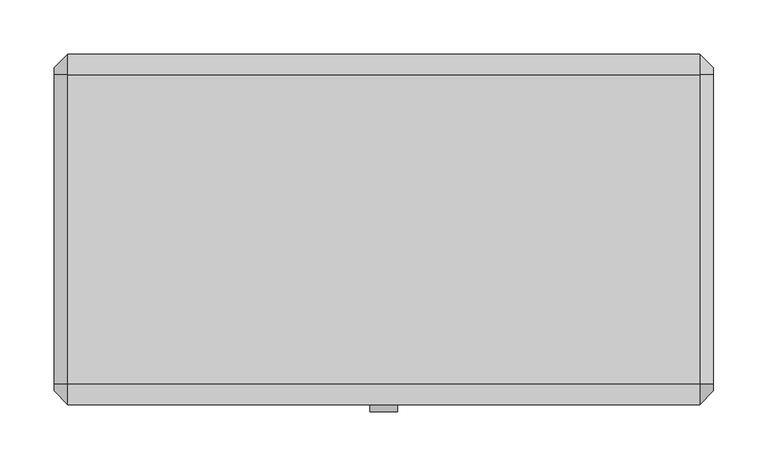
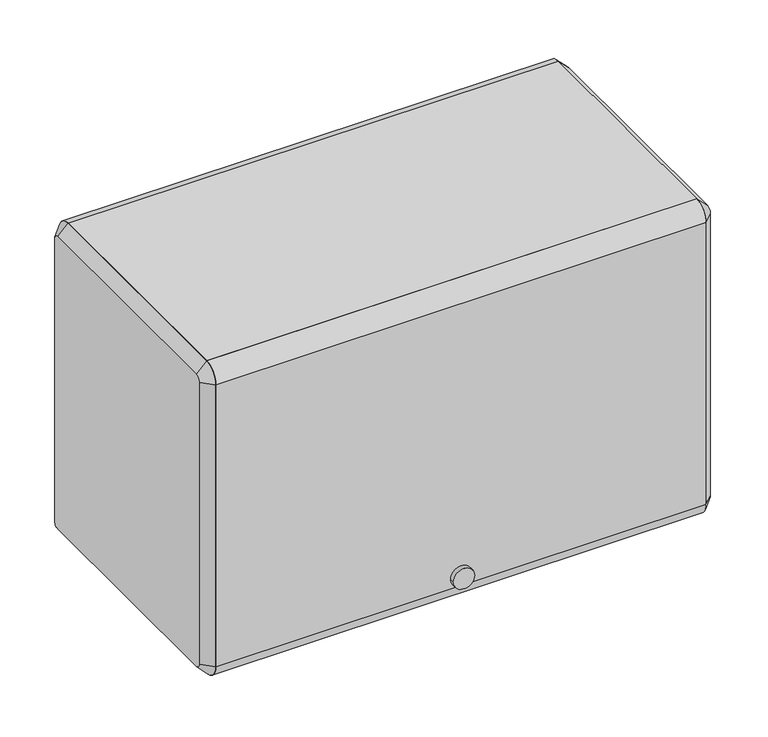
"""IFC4 building model written with IfcOpenShell, lengths in millimetres: furniture geometry."""

import ifcopenshell
import ifcopenshell.guid

model = None  # the IFC model being written
_history = None  # IfcOwnerHistory: only IFC2X3 demands one
_inside = {}  # id of a spatial element -> (the spatial element, [elements in it])
_under = {}  # id of a project, library or spatial element -> (it, [spatial elements below it])
_declared = {}  # id of a project -> (the project, [libraries it declares])
_typed = {}  # id of a type object -> (the type object, [elements of that type])
_made_of = {}  # id of a material, layer set ... -> (it, [elements and type objects made of it])


def new_model(schema):
    """Start an empty IFC model of exactly this schema.

    Asked for "IFC4X3", IfcOpenShell would pick the latest addendum, in which some entities
    have other attributes; the version numbers below select the first issue.
    IFC2X3 requires an IfcOwnerHistory on every rooted entity: one is made here for all.
    """
    global model, _history
    if schema == "IFC4X3":
        model = ifcopenshell.file(schema_version=(4, 3, 0, 0))
    else:
        model = ifcopenshell.file(schema=schema)
    _inside.clear()
    _under.clear()
    _declared.clear()
    _typed.clear()
    _made_of.clear()
    _history = None
    if model.schema == "IFC2X3":
        org = make("IfcOrganization", Name="unknown")
        user = make(
            "IfcPersonAndOrganization",
            ThePerson=make("IfcPerson", FamilyName="unknown"),
            TheOrganization=org,
        )
        app = make(
            "IfcApplication",
            ApplicationDeveloper=org,
            Version="unknown",
            ApplicationFullName="unknown",
            ApplicationIdentifier="unknown",
        )
        _history = make(
            "IfcOwnerHistory",
            OwningUser=user,
            OwningApplication=app,
            ChangeAction="ADDED",
            CreationDate=0,
        )
    return model


def make(cls, **values):
    """One entity of the class cls with the attributes given. An attribute that is None is left unset."""
    return model.create_entity(
        cls, **{name: value for name, value in values.items() if value is not None}
    )


def rooted(cls, **values):
    """An entity with a GlobalId (a new one), such as an element, a storey or a relation."""
    return make(cls, GlobalId=ifcopenshell.guid.new(), OwnerHistory=_history, **values)


def si_unit(unit_type, name, prefix=None):
    """IfcSIUnit, for example si_unit("LENGTHUNIT", "METRE", prefix="MILLI")."""
    return make("IfcSIUnit", UnitType=unit_type, Prefix=prefix, Name=name)


def assignment(units):
    """IfcUnitAssignment: the units of a project."""
    return None if units is None else make("IfcUnitAssignment", Units=units)


def point(xyz):
    """IfcCartesianPoint."""
    return None if xyz is None else make("IfcCartesianPoint", Coordinates=xyz)


def direction(xyz):
    """IfcDirection."""
    return None if xyz is None else make("IfcDirection", DirectionRatios=xyz)


def frame(location, z_axis=None, x_axis=None):
    """IfcAxis2Placement3D, a coordinate frame: its origin and axes. An axis left out is left unset."""
    return make(
        "IfcAxis2Placement3D",
        Location=point(location),
        Axis=direction(z_axis),
        RefDirection=direction(x_axis),
    )


def frame_2d(location, x_axis=None):
    """IfcAxis2Placement2D, a coordinate frame in the plane: its origin and x axis."""
    return make(
        "IfcAxis2Placement2D", Location=point(location), RefDirection=direction(x_axis)
    )


def origin():
    """The frame at (0, 0, 0) with its axes left unset."""
    return frame((0.0, 0.0, 0.0))


def place(relative_to, where):
    """IfcLocalPlacement: puts the frame where relative to a parent placement (None: the world)."""
    return make(
        "IfcLocalPlacement", PlacementRelTo=relative_to, RelativePlacement=where
    )


def context(
    kind, dimensions, precision=None, world=None, true_north=None, identifier=None
):
    """IfcGeometricRepresentationContext, for example the 3D "Model" context."""
    return make(
        "IfcGeometricRepresentationContext",
        ContextIdentifier=identifier,
        ContextType=kind,
        CoordinateSpaceDimension=dimensions,
        Precision=precision,
        WorldCoordinateSystem=world,
        TrueNorth=true_north,
    )


def project(units=None, contexts=None):
    """IfcProject with its units and contexts."""
    return rooted(
        "IfcProject",
        Name="project",
        RepresentationContexts=contexts,
        UnitsInContext=assignment(units),
    )


def spatial(cls, under=None, at=None, **own):
    """A site, building, storey or space (cls), placed at a placement, below another one or the project."""
    s = rooted(cls, ObjectPlacement=at, **own)
    if under is not None:
        _under.setdefault(under.id(), (under, []))[1].append(s)
    return s


def polyline(points):
    """IfcPolyline through the points."""
    return make("IfcPolyline", Points=[point(p) for p in points])


def circle_curve(where, radius):
    """IfcCircle in the frame where."""
    return make("IfcCircle", Position=where, Radius=radius)


def trimmed(basis, trim1, trim2, sense, master):
    """IfcTrimmedCurve: the piece of a basis curve between two trims."""
    return make(
        "IfcTrimmedCurve",
        BasisCurve=basis,
        Trim1=trim1,
        Trim2=trim2,
        SenseAgreement=sense,
        MasterRepresentation=master,
    )


def segment(curve, same_sense, transition):
    """IfcCompositeCurveSegment."""
    return make(
        "IfcCompositeCurveSegment",
        Transition=transition,
        SameSense=same_sense,
        ParentCurve=curve,
    )


def composite_curve(segments, self_intersect=None):
    """IfcCompositeCurve: segments joined end to end."""
    return make("IfcCompositeCurve", Segments=segments, SelfIntersect=self_intersect)


def outline(outer, holes=None, kind="AREA"):
    """IfcArbitraryClosedProfileDef: a profile drawn as a closed curve; with holes, ...WithVoids."""
    if holes is None:
        return make("IfcArbitraryClosedProfileDef", ProfileType=kind, OuterCurve=outer)
    return make(
        "IfcArbitraryProfileDefWithVoids",
        ProfileType=kind,
        OuterCurve=outer,
        InnerCurves=holes,
    )


def extrude(swept, where, along, depth):
    """IfcExtrudedAreaSolid: the profile swept, set in the frame where, extruded along a direction by depth."""
    return make(
        "IfcExtrudedAreaSolid",
        SweptArea=swept,
        Position=where,
        ExtrudedDirection=direction(along),
        Depth=depth,
    )


def shape(context_of_items, identifier, shape_type, items):
    """IfcShapeRepresentation: the items that make up one representation, for example the "Body"."""
    return make(
        "IfcShapeRepresentation",
        ContextOfItems=context_of_items,
        RepresentationIdentifier=identifier,
        RepresentationType=shape_type,
        Items=items,
    )


def source(mapping_origin, context_of_items, identifier, shape_type, items):
    """IfcRepresentationMap: a shape defined once, which mapped items show again and again."""
    return make(
        "IfcRepresentationMap",
        MappingOrigin=mapping_origin,
        MappedRepresentation=shape(context_of_items, identifier, shape_type, items),
    )


def transform(
    local_origin,
    x_axis=None,
    y_axis=None,
    z_axis=None,
    scale=None,
    scale2=None,
    scale3=None,
    uniform=True,
):
    """IfcCartesianTransformationOperator3D, or its non-uniform kind. x_axis, y_axis, z_axis: its Axis1, 2, 3."""
    if uniform:
        return make(
            "IfcCartesianTransformationOperator3D",
            Axis1=direction(x_axis),
            Axis2=direction(y_axis),
            LocalOrigin=point(local_origin),
            Scale=scale,
            Axis3=direction(z_axis),
        )
    return make(
        "IfcCartesianTransformationOperator3DnonUniform",
        Axis1=direction(x_axis),
        Axis2=direction(y_axis),
        LocalOrigin=point(local_origin),
        Scale=scale,
        Axis3=direction(z_axis),
        Scale2=scale2,
        Scale3=scale3,
    )


def mapped(mapping_source, mapping_target):
    """IfcMappedItem: shows the shape of a source again, moved by a transform."""
    return make(
        "IfcMappedItem", MappingSource=mapping_source, MappingTarget=mapping_target
    )


def made_of(thing, what):
    """Note that an element or type object is made of a material, layer set ...; save() writes the relation."""
    if what is not None:
        _made_of.setdefault(what.id(), (what, []))[1].append(thing)
    return thing


def element(
    cls,
    number,
    at=None,
    inside=None,
    cuts=None,
    type_object=None,
    material=None,
    context=None,
    identifier="Body",
    shape_type=None,
    held_by="IfcProductDefinitionShape",
    body=None,
    shapes=None,
    **own,
):
    """One element of the class cls, such as IfcWall. Its Tag is "e" and its number.

    at: its placement. inside: the storey or other place that contains it. cuts: it is an
    opening in that element (IfcRelVoidsElement). A single representation is given by context,
    identifier, shape_type and body (its items); several are given by shapes. held_by: the class
    of the entity that holds the representations. save() writes the other relations.
    """
    e = rooted(cls, Tag="e%d" % number, ObjectPlacement=at, **own)
    if body is not None:
        shapes = [shape(context, identifier, shape_type, body)]
    if shapes is not None:
        e.Representation = make(held_by, Representations=shapes)
    if inside is not None:
        _inside.setdefault(inside.id(), (inside, []))[1].append(e)
    if cuts is not None:
        rooted(
            "IfcRelVoidsElement", RelatingBuildingElement=cuts, RelatedOpeningElement=e
        )
    if type_object is not None:
        _typed.setdefault(type_object.id(), (type_object, []))[1].append(e)
    return made_of(e, material)


def aggregate(whole, parts):
    """IfcRelAggregates: a whole, such as a stair, and the parts it consists of."""
    return rooted("IfcRelAggregates", RelatingObject=whole, RelatedObjects=parts)


def save(model, path):
    """Write the relations noted so far, then the file.

    IfcRelAggregates (storeys below a building ...), IfcRelContainedInSpatialStructure (elements
    in a storey), IfcRelDefinesByType, IfcRelAssociatesMaterial and IfcRelDeclares: one each for
    every whole, place, type object, material and project.
    """
    for whole, parts in _under.values():
        aggregate(whole, parts)
    for where, things in _inside.values():
        rooted(
            "IfcRelContainedInSpatialStructure",
            RelatedElements=things,
            RelatingStructure=where,
        )
    for kind, things in _typed.values():
        rooted("IfcRelDefinesByType", RelatedObjects=things, RelatingType=kind)
    for what, things in _made_of.values():
        rooted("IfcRelAssociatesMaterial", RelatedObjects=things, RelatingMaterial=what)
    for by, libraries in _declared.values():
        rooted("IfcRelDeclares", RelatingContext=by, RelatedDefinitions=libraries)
    model.write(path)


def plane_surface(at):
    """IfcPlane: the flat surface through the origin of the frame at, square to its z axis."""
    return make("IfcPlane", Position=at)


def revolved_surface(curve, axis_point, axis_direction):
    """IfcSurfaceOfRevolution: the curve turned about the line through axis_point along axis_direction."""
    return make(
        "IfcSurfaceOfRevolution",
        SweptCurve=make("IfcArbitraryOpenProfileDef", ProfileType="CURVE", Curve=curve),
        AxisPosition=make("IfcAxis1Placement", Location=point(axis_point), Axis=direction(axis_direction)),
    )


def advanced_brep(points, edges, surfaces, faces):
    """IfcAdvancedBrep: a solid bounded by faces that lie on surfaces and meet in shared edges.

    An edge is (start, end): straight between two places in points (the first is 0);
    or (start, end, curve); or (start, end, curve, False) where it runs against its curve.
    A face is (place in surfaces, loops), or (place, loops, False) where it looks against
    its surface's normal. A loop lists edges by number (the first is 1), with a minus sign
    where the edge is run from its end to its start. The first loop is the outer one.
    """
    corners = [point(p) for p in points]
    vertices = [make("IfcVertexPoint", VertexGeometry=c) for c in corners]
    made = []
    for start, end, *more in edges:
        made.append(
            make(
                "IfcEdgeCurve",
                EdgeStart=vertices[start],
                EdgeEnd=vertices[end],
                EdgeGeometry=more[0] if more else make("IfcPolyline", Points=[corners[start], corners[end]]),
                SameSense=more[1] if len(more) > 1 else True,
            )
        )
    hull = []
    for where, loops, *sense in faces:
        bounds = []
        for j, loop in enumerate(loops):
            ring = [make("IfcOrientedEdge", EdgeElement=made[abs(k) - 1], Orientation=k > 0) for k in loop]
            bounds.append(
                make(
                    "IfcFaceOuterBound" if j == 0 else "IfcFaceBound",
                    Bound=make("IfcEdgeLoop", EdgeList=ring),
                    Orientation=True,
                )
            )
        hull.append(make("IfcAdvancedFace", Bounds=bounds, FaceSurface=surfaces[where], SameSense=sense[0] if sense else True))
    return make("IfcAdvancedBrep", Outer=make("IfcClosedShell", CfsFaces=hull))


def furniture_c9942d7d(model_context):
    return source(origin(), model_context, "Body", "SolidModel", [
        extrude(outline(composite_curve([segment(polyline([(-130.175, 1765.3), (-130.175, 1778.0), (155.575, 1778.0)]), True, "CONTINUOUS"), segment(trimmed(circle_curve(frame_2d((155.575, 1758.95)), 19.05), [point((155.575, 1778.0))], [point((174.625, 1758.95))], False, "CARTESIAN"), True, "CONTINUOUS"), segment(polyline([(174.625, 1758.95), (161.925, 1758.95)]), True, "CONTINUOUS"), segment(trimmed(circle_curve(frame_2d((155.575, 1758.95)), 6.35), [point((161.925, 1758.95))], [point((155.575, 1765.3))], True, "CARTESIAN"), True, "CONTINUOUS"), segment(polyline([(155.575, 1765.3), (-130.175, 1765.3)]), True, "CONTINUOUS")], self_intersect=False)), frame((-292.1, 0.0, 0.0), z_axis=(1.0, 0.0, 0.0), x_axis=(0.0, 1.0, 0.0)), (0.0, 0.0, 1.0), 584.2),
        extrude(outline(composite_curve([segment(trimmed(circle_curve(frame_2d((-130.175, 1758.95)), 19.05), [point((-149.225, 1758.95))], [point((-130.175, 1778.0))], False, "CARTESIAN"), True, "CONTINUOUS"), segment(polyline([(-130.175, 1778.0), (-130.175, 1765.3)]), True, "CONTINUOUS"), segment(trimmed(circle_curve(frame_2d((-130.175, 1758.95)), 6.35), [point((-130.175, 1765.3))], [point((-136.525, 1758.95))], True, "CARTESIAN"), True, "CONTINUOUS"), segment(polyline([(-136.525, 1758.95), (-136.525, 1403.35)]), True, "CONTINUOUS"), segment(trimmed(circle_curve(frame_2d((-130.175, 1403.35)), 6.35), [point((-136.525, 1403.35))], [point((-130.175, 1397.0))], True, "CARTESIAN"), True, "CONTINUOUS"), segment(polyline([(-130.175, 1397.0), (-130.175, 1384.3)]), True, "CONTINUOUS"), segment(trimmed(circle_curve(frame_2d((-130.175, 1403.35)), 19.05), [point((-130.175, 1384.3))], [point((-149.225, 1403.35))], False, "CARTESIAN"), True, "CONTINUOUS"), segment(polyline([(-149.225, 1403.35), (-149.225, 1758.95)]), True, "CONTINUOUS")], self_intersect=False)), frame((-292.1, 0.0, 0.0), z_axis=(1.0, 0.0, 0.0), x_axis=(0.0, 1.0, 0.0)), (0.0, 0.0, 1.0), 584.2),
        extrude(outline(polyline([(-130.175, 1422.4), (155.575, 1422.4), (155.575, 1460.5), (168.275, 1460.5), (168.275, 1457.325), (158.75, 1457.325), (158.75, 1419.225), (-127.0, 1419.225), (-127.0, 1400.175), (-130.175, 1400.175), (-130.175, 1422.4)])), frame((-292.1, 0.0, 0.0), z_axis=(1.0, 0.0, 0.0), x_axis=(0.0, 1.0, 0.0)), (0.0, 0.0, 1.0), 584.2),
        advanced_brep(
        [(304.8, 155.575, 1765.3), (304.8, -130.175, 1765.3), (304.8, -136.525, 1758.95), (304.8, -136.525, 1403.35), (304.8, -130.175, 1397.0), (304.8, 155.575, 1397.0), (304.8, 161.925, 1403.35), (304.8, 161.925, 1758.95), (292.1, 155.575, 1778.0), (292.1, 174.625, 1758.95), (292.1, 174.625, 1403.35), (292.1, 155.575, 1384.3), (292.1, -130.175, 1384.3), (292.1, -149.225, 1403.35), (292.1, -149.225, 1758.95), (292.1, -130.175, 1778.0)],
        [
            (0, 1),
            (1, 2, circle_curve(frame((304.8, -130.175, 1758.95), z_axis=(1.0, 0.0, 0.0), x_axis=(0.0, 0.0, 1.0)), 6.35)),
            (2, 3),
            (3, 4, circle_curve(frame((304.8, -130.175, 1403.35), z_axis=(1.0, -2.3394619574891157e-12, -2.366107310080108e-12), x_axis=(-2.3394377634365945e-12, -1.0, 0.0)), 6.35)),
            (4, 5),
            (5, 6, circle_curve(frame((304.8, 155.575, 1403.35), z_axis=(1.0, -2.3128166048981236e-12, 2.280842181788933e-12), x_axis=(2.2808733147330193e-12, 0.0, -1.0)), 6.35)),
            (6, 7),
            (7, 0, circle_curve(frame((304.8, 155.575, 1758.95), z_axis=(1.0, 0.0, 0.0), x_axis=(0.0, 1.0, 0.0)), 6.35)),
            (8, 9, circle_curve(frame((292.1, 155.575, 1758.95), z_axis=(-1.0, 0.0, 0.0), x_axis=(0.0, 1.0, 0.0)), 19.05)),
            (9, 10),
            (10, 11, circle_curve(frame((292.1, 155.575, 1403.35), z_axis=(-1.0, 2.3128166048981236e-12, -2.280842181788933e-12), x_axis=(2.2808733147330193e-12, 0.0, -1.0)), 19.05)),
            (11, 12),
            (12, 13, circle_curve(frame((292.1, -130.175, 1403.35), z_axis=(-1.0, 2.3394619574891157e-12, 2.366107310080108e-12), x_axis=(-2.3394377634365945e-12, -1.0, 0.0)), 19.05)),
            (13, 14),
            (14, 15, circle_curve(frame((292.1, -130.175, 1758.95), z_axis=(-1.0, 0.0, 0.0), x_axis=(0.0, 0.0, 1.0)), 19.05)),
            (15, 8),
            (15, 1),
            (0, 8),
            (14, 2),
            (13, 3),
            (12, 4),
            (11, 5),
            (10, 6),
            (9, 7),
        ],
        [
            plane_surface(frame((304.8, 12.7, 1581.15), z_axis=(1.0, 0.0, 0.0), x_axis=(0.0, -1.0, 0.0))),
            plane_surface(frame((292.1, 12.7, 1581.15), z_axis=(-1.0, 0.0, 0.0), x_axis=(0.0, -1.0, 0.0))),
            plane_surface(frame((292.1, 12.7, 1778.0), z_axis=(0.7071067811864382, 0.0, 0.7071067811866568), x_axis=(0.0, -1.0, 0.0))),
            revolved_surface(polyline([(304.8, -130.175, 1765.3), (292.1, -130.175, 1778.0)]), (311.15, -130.175, 1758.95), (-1.0, 0.0, 0.0)),
            plane_surface(frame((292.1, -149.225, 1581.15), z_axis=(0.7071067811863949, -0.7071067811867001, 0.0), x_axis=(0.0, 0.0, -1.0))),
            revolved_surface(polyline([(304.8000000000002, -136.5249999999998, 1403.35), (292.09999999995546, -149.22500000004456, 1403.35)]), (311.15, -130.175, 1403.35), (-1.0, 2.3394619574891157e-12, 2.366107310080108e-12)),
            plane_surface(frame((292.1, 12.7, 1384.3), z_axis=(0.7071067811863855, 0.0, -0.7071067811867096), x_axis=(0.0, 1.0, 0.0))),
            revolved_surface(polyline([(304.8000000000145, 155.575, 1397.0000000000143), (292.0999999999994, 155.575, 1384.2999999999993)]), (311.15, 155.575, 1403.35), (-1.0, 2.3128166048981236e-12, -2.280842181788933e-12)),
            plane_surface(frame((292.1, 174.625, 1581.15), z_axis=(0.707106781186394, 0.7071067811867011, 0.0), x_axis=(0.0, 0.0, 1.0))),
            revolved_surface(polyline([(304.8, 161.92499999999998, 1758.95), (292.1, 174.625, 1758.95)]), (311.15, 155.575, 1758.95), (-1.0, 0.0, 0.0)),
        ],
        [
            (0, [[1, 2, 3, 4, 5, 6, 7, 8]]),
            (1, [[9, 10, 11, 12, 13, 14, 15, 16]]),
            (2, [[-16, 17, -1, 18]]),
            (3, [[-15, 19, -2, -17]]),
            (4, [[-14, 20, -3, -19]]),
            (5, [[-13, 21, -4, -20]]),
            (6, [[-12, 22, -5, -21]]),
            (7, [[-11, 23, -6, -22]]),
            (8, [[-10, 24, -7, -23]]),
            (9, [[-9, -18, -8, -24]]),
        ],
    ),
        advanced_brep(
        [(-304.8, -130.175, 1765.3), (-304.8, 155.575, 1765.3), (-304.8, 161.925, 1758.95), (-304.8, 161.925, 1403.35), (-304.8, 155.575, 1397.0), (-304.8, -130.175, 1397.0), (-304.8, -136.525, 1403.35), (-304.8, -136.525, 1758.95), (-292.1, -130.175, 1778.0), (-292.1, -149.225, 1758.95), (-292.1, -149.225, 1403.35), (-292.1, -130.175, 1384.3), (-292.1, 155.575, 1384.3), (-292.1, 174.625, 1403.35), (-292.1, 174.625, 1758.95), (-292.1, 155.575, 1778.0)],
        [
            (0, 1),
            (1, 2, circle_curve(frame((-304.8, 155.575, 1758.95), z_axis=(-1.0, -2.3341328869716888e-12, -2.2168933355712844e-12), x_axis=(-2.216970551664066e-12, 0.0, 1.0)), 6.35)),
            (2, 3),
            (3, 4, circle_curve(frame((-304.8, 155.575, 1403.35), z_axis=(-1.0, 0.0, 0.0), x_axis=(0.0, 1.0, 0.0)), 6.35)),
            (4, 5),
            (5, 6, circle_curve(frame((-304.8, -130.175, 1403.35), z_axis=(-1.0, 0.0, 0.0), x_axis=(0.0, 0.0, -1.0)), 6.35)),
            (6, 7),
            (7, 0, circle_curve(frame((-304.8, -130.175, 1758.95), z_axis=(-1.0, -2.3288038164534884e-12, 2.4300561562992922e-12), x_axis=(2.328761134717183e-12, -1.0, 0.0)), 6.35)),
            (8, 9, circle_curve(frame((-292.1, -130.175, 1758.95), z_axis=(1.0, 2.3288038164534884e-12, -2.4300561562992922e-12), x_axis=(2.328761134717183e-12, -1.0, 0.0)), 19.05)),
            (9, 10),
            (10, 11, circle_curve(frame((-292.1, -130.175, 1403.35), z_axis=(1.0, 0.0, 0.0), x_axis=(0.0, 0.0, -1.0)), 19.05)),
            (11, 12),
            (12, 13, circle_curve(frame((-292.1, 155.575, 1403.35), z_axis=(1.0, 0.0, 0.0), x_axis=(0.0, 1.0, 0.0)), 19.05)),
            (13, 14),
            (14, 15, circle_curve(frame((-292.1, 155.575, 1758.95), z_axis=(1.0, 2.3341328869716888e-12, 2.2168933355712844e-12), x_axis=(-2.216970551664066e-12, 0.0, 1.0)), 19.05)),
            (15, 8),
            (15, 1),
            (0, 8),
            (14, 2),
            (13, 3),
            (12, 4),
            (11, 5),
            (10, 6),
            (9, 7),
        ],
        [
            plane_surface(frame((-304.8, 12.7, 1581.15), z_axis=(-1.0, 0.0, 0.0), x_axis=(0.0, -1.0, 0.0))),
            plane_surface(frame((-292.1, 12.7, 1581.15), z_axis=(1.0, 0.0, 0.0), x_axis=(0.0, -1.0, 0.0))),
            plane_surface(frame((-292.1, 12.7, 1778.0), z_axis=(-0.7071067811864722, 0.0, 0.707106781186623), x_axis=(0.0, 1.0, 0.0))),
            revolved_surface(polyline([(-304.8000000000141, 155.575, 1765.2999999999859), (-292.0999999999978, 155.575, 1778.0000000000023)]), (-311.15, 155.575, 1758.95), (1.0, 2.3341328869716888e-12, 2.2168933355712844e-12)),
            plane_surface(frame((-292.1, 174.625, 1581.15), z_axis=(-0.7071067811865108, 0.7071067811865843, 0.0), x_axis=(0.0, 0.0, -1.0))),
            revolved_surface(polyline([(-304.8, 161.92499999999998, 1403.35), (-292.1, 174.625, 1403.35)]), (-311.15, 155.575, 1403.35), (1.0, 0.0, 0.0)),
            plane_surface(frame((-292.1, 12.7, 1384.3), z_axis=(-0.7071067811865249, 0.0, -0.7071067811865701), x_axis=(0.0, -1.0, 0.0))),
            revolved_surface(polyline([(-304.8, -130.175, 1397.0), (-292.1, -130.175, 1384.3)]), (-311.15, -130.175, 1403.35), (1.0, 0.0, 0.0)),
            plane_surface(frame((-292.1, -149.225, 1581.15), z_axis=(-0.7071067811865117, -0.7071067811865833, 0.0), x_axis=(0.0, 0.0, 1.0))),
            revolved_surface(polyline([(-304.80000000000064, -136.52499999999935, 1758.95), (-292.0999999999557, -149.22500000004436, 1758.95)]), (-311.15, -130.175, 1758.95), (1.0, 2.3288038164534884e-12, -2.4300561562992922e-12)),
        ],
        [
            (0, [[1, 2, 3, 4, 5, 6, 7, 8]]),
            (1, [[9, 10, 11, 12, 13, 14, 15, 16]]),
            (2, [[-16, 17, -1, 18]]),
            (3, [[-15, 19, -2, -17]]),
            (4, [[-14, 20, -3, -19]]),
            (5, [[-13, 21, -4, -20]]),
            (6, [[-12, 22, -5, -21]]),
            (7, [[-11, 23, -6, -22]]),
            (8, [[-10, 24, -7, -23]]),
            (9, [[-9, -18, -8, -24]]),
        ],
    ),
        extrude(outline(composite_curve([segment(trimmed(circle_curve(frame_2d((1416.0118906, 0.0201199)), 12.7253951), [point((1416.0118906, 12.745515))], [point((1416.0118906, -12.7052752))], False, "CARTESIAN"), True, "CONTINUOUS"), segment(trimmed(circle_curve(frame_2d((1416.0118906, 0.0201199)), 12.7253951), [point((1416.0118906, -12.7052752))], [point((1416.0118906, 12.745515))], False, "CARTESIAN"), True, "CONTINUOUS")], self_intersect=False)), frame((0.0, -155.575, 0.0), z_axis=(0.0, 1.0, 0.0), x_axis=(0.0, 0.0, 1.0)), (0.0, 0.0, 1.0), 6.35),
    ])


if __name__ == "__main__":
    model = new_model("IFC4")
    model_context = context("Model", 3, world=origin())
    ifc_project = project(units=[si_unit("LENGTHUNIT", "METRE", prefix="MILLI")], contexts=[model_context])
    site = spatial("IfcSite", under=ifc_project)
    building = spatial("IfcBuilding", under=site)
    placement = place(None, origin())
    furniture_shape = furniture_c9942d7d(model_context)
    element("IfcFurniture", 1, ObjectType="HermanMiller_Ethospace_E3212_B-StyleFlipperDoorUnit : Ptd W/Lock 13\"D x 24\"W", at=placement, inside=building, context=model_context, shape_type="MappedRepresentation", body=[
        mapped(furniture_shape, transform((0.0, 0.0, 0.0), x_axis=(1.0, 0.0, 0.0), y_axis=(0.0, 1.0, 0.0), z_axis=(0.0, 0.0, 1.0))),
    ])
    save(model, "model.ifc")
